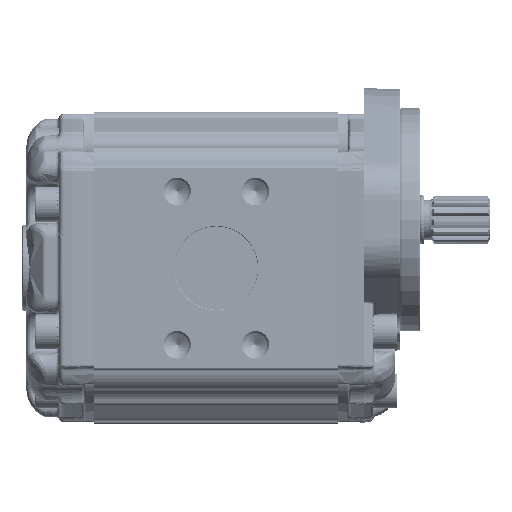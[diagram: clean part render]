
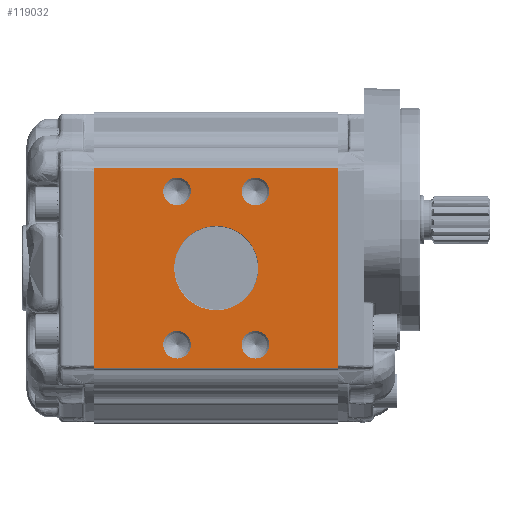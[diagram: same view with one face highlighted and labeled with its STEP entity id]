
A CAD part, left-side view. The second image highlights one B-rep face of the part: STEP entity #119032.
In plain terms, the highlighted planar face has unit normal (-1, 0, 0).
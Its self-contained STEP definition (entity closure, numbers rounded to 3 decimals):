
#7397=PLANE('',#125434);
#10167=LINE('',#217098,#14927);
#10178=LINE('',#217183,#14938);
#10216=LINE('',#217291,#14976);
#10217=LINE('',#217292,#14977);
#14927=VECTOR('',#138857,1000.);
#14938=VECTOR('',#138932,1000.);
#14976=VECTOR('',#139058,1000.);
#14977=VECTOR('',#139059,1000.);
#30643=ORIENTED_EDGE('',*,*,#51761,.T.);
#30644=ORIENTED_EDGE('',*,*,#51762,.T.);
#30645=ORIENTED_EDGE('',*,*,#51763,.T.);
#30646=ORIENTED_EDGE('',*,*,#51764,.T.);
#30647=ORIENTED_EDGE('',*,*,#51765,.T.);
#30648=ORIENTED_EDGE('',*,*,#51665,.F.);
#30649=ORIENTED_EDGE('',*,*,#51766,.T.);
#30650=ORIENTED_EDGE('',*,*,#51707,.F.);
#30651=ORIENTED_EDGE('',*,*,#51767,.T.);
#51665=EDGE_CURVE('',#63113,#63114,#10167,.T.);
#51707=EDGE_CURVE('',#63155,#63156,#10178,.T.);
#51761=EDGE_CURVE('',#63177,#63177,#69834,.F.);
#51762=EDGE_CURVE('',#63178,#63178,#69835,.F.);
#51763=EDGE_CURVE('',#63179,#63179,#69836,.F.);
#51764=EDGE_CURVE('',#63180,#63180,#69837,.F.);
#51765=EDGE_CURVE('',#63181,#63181,#69838,.F.);
#51766=EDGE_CURVE('',#63113,#63156,#10216,.F.);
#51767=EDGE_CURVE('',#63155,#63114,#10217,.F.);
#63113=VERTEX_POINT('',#217097);
#63114=VERTEX_POINT('',#217099);
#63155=VERTEX_POINT('',#217182);
#63156=VERTEX_POINT('',#217184);
#63177=VERTEX_POINT('',#217282);
#63178=VERTEX_POINT('',#217284);
#63179=VERTEX_POINT('',#217286);
#63180=VERTEX_POINT('',#217288);
#63181=VERTEX_POINT('',#217290);
#69834=CIRCLE('',#125435,6.292);
#69835=CIRCLE('',#125436,6.292);
#69836=CIRCLE('',#125437,6.292);
#69837=CIRCLE('',#125438,6.292);
#69838=CIRCLE('',#125439,19.2);
#74199=EDGE_LOOP('',(#30643));
#74200=EDGE_LOOP('',(#30644));
#74201=EDGE_LOOP('',(#30645));
#74202=EDGE_LOOP('',(#30646));
#74203=EDGE_LOOP('',(#30647));
#74204=EDGE_LOOP('',(#30648,#30649,#30650,#30651));
#79355=FACE_BOUND('',#74199,.T.);
#79356=FACE_BOUND('',#74200,.T.);
#79357=FACE_BOUND('',#74201,.T.);
#79358=FACE_BOUND('',#74202,.T.);
#79359=FACE_BOUND('',#74203,.T.);
#79360=FACE_BOUND('',#74204,.T.);
#119032=ADVANCED_FACE('',(#79355,#79356,#79357,#79358,#79359,#79360),#7397,
 .T.);
#125434=AXIS2_PLACEMENT_3D('',#217280,#139046,#139047);
#125435=AXIS2_PLACEMENT_3D('',#217281,#139048,#139049);
#125436=AXIS2_PLACEMENT_3D('',#217283,#139050,#139051);
#125437=AXIS2_PLACEMENT_3D('',#217285,#139052,#139053);
#125438=AXIS2_PLACEMENT_3D('',#217287,#139054,#139055);
#125439=AXIS2_PLACEMENT_3D('',#217289,#139056,#139057);
#138857=DIRECTION('',(0.,0.,1.));
#138932=DIRECTION('',(0.,0.,-1.));
#139046=DIRECTION('',(-1.,0.,0.));
#139047=DIRECTION('',(0.,0.,-1.));
#139048=DIRECTION('',(-1.,0.,0.));
#139049=DIRECTION('',(0.,0.,-1.));
#139050=DIRECTION('',(-1.,0.,0.));
#139051=DIRECTION('',(0.,0.,-1.));
#139052=DIRECTION('',(-1.,0.,0.));
#139053=DIRECTION('',(0.,0.,-1.));
#139054=DIRECTION('',(-1.,0.,0.));
#139055=DIRECTION('',(0.,0.,-1.));
#139056=DIRECTION('',(-1.,0.,0.));
#139057=DIRECTION('',(0.,0.,-1.));
#139058=DIRECTION('',(0.,1.,0.));
#139059=DIRECTION('',(0.,-1.,0.));
#217097=CARTESIAN_POINT('',(-57.5,111.,-45.5));
#217098=CARTESIAN_POINT('',(-57.5,111.,-84.819));
#217099=CARTESIAN_POINT('',(-57.5,111.,45.5));
#217182=CARTESIAN_POINT('',(-57.5,0.,45.5));
#217183=CARTESIAN_POINT('',(-57.5,0.,-44.978));
#217184=CARTESIAN_POINT('',(-57.5,0.,-45.5));
#217280=CARTESIAN_POINT('',(-57.5,-127.87,-84.819));
#217281=CARTESIAN_POINT('',(-57.5,73.355,34.925));
#217282=CARTESIAN_POINT('',(-57.5,73.355,28.633));
#217283=CARTESIAN_POINT('',(-57.5,37.645,34.925));
#217284=CARTESIAN_POINT('',(-57.5,37.645,28.633));
#217285=CARTESIAN_POINT('',(-57.5,73.355,-34.925));
#217286=CARTESIAN_POINT('',(-57.5,73.355,-41.217));
#217287=CARTESIAN_POINT('',(-57.5,37.645,-34.925));
#217288=CARTESIAN_POINT('',(-57.5,37.645,-41.217));
#217289=CARTESIAN_POINT('',(-57.5,55.5,0.));
#217290=CARTESIAN_POINT('',(-57.5,55.5,-19.2));
#217291=CARTESIAN_POINT('',(-57.5,-127.87,-45.5));
#217292=CARTESIAN_POINT('',(-57.5,-127.87,45.5));
